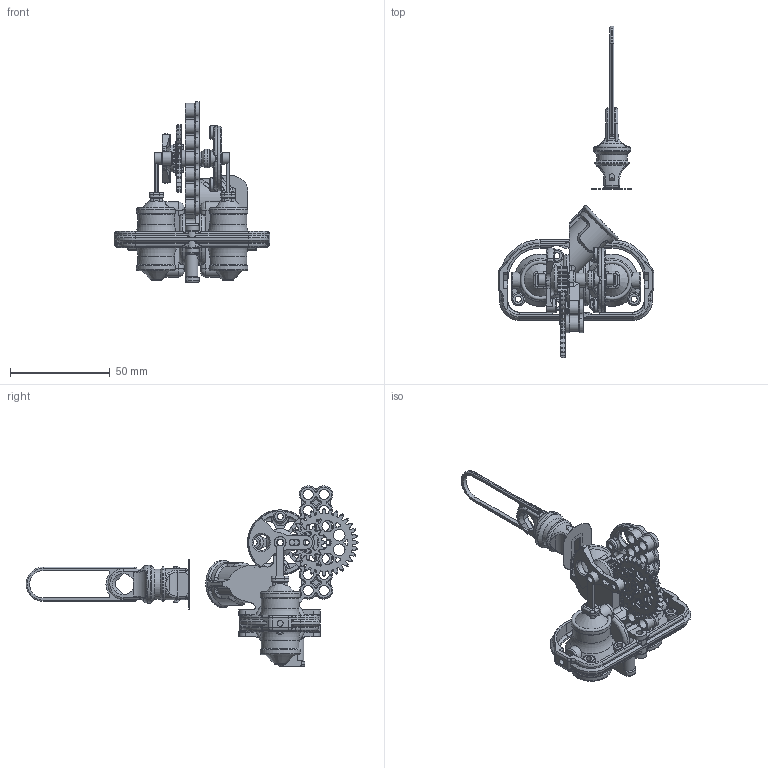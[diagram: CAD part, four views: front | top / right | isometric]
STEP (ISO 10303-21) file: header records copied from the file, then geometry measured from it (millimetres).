
FILE_DESCRIPTION(/* description */ (''),/* implementation_level */ '2;1');
FILE_NAME(/* name */ 'D:/WorkWork/3D_Print/A_Oscillator/FINAL/Oscillator_LEGO_V7 v11.step',/* time_stamp */ '2021-03-13T13:36:22+03:00',/* author */ (''),/* organization */ (''),/* preprocessor_version */ 'ST-DEVELOPER v18.1',/* originating_system */ 'Autodesk Translation Framework v9.10.0.1330',/* authorisation */ '');
FILE_SCHEMA (('AUTOMOTIVE_DESIGN { 1 0 10303 214 3 1 1 }'));
Products named in the file (7): Oscillator_LEGO_V7; Cylinder; Base; Cylinder_R; Spur Gear (32 teeth) (1); Spur Gear (16 teeth); Balloon_Key_Smaller v1
Assembly tree (6 placements, depth 2):
  Oscillator_LEGO_V7
    Cylinder
    Base
    Cylinder_R
    Spur Gear (32 teeth) (1)
    Spur Gear (16 teeth)
    Balloon_Key_Smaller v1
Bounding box: 77.84 x 166.2 x 90.25 mm (x, y, z)
Volume: 33831.8 mm3; surface area: 47934.5 mm2
Topology: 19 solids, 19 shells, 2411 faces, 6636 edges, 4198 vertices
Faces by surface type: cylinder 881, plane 675, bspline 431, cone 265, torus 155, sphere 4
Full cylindrical faces by diameter (mm): 3 x22, 3.2 x11, 3.4 x5, 4.4 x1, 4.6 x1, 5.1 x11, 5.8 x2, 5.849 x7, 6 x1, 6.3 x11, 6.6 x9, 7.8 x1, 7.9 x1, 8.6 x1, 8.8 x4, 9.4 x1, 12.8 x3, 14 x1, 15.2 x1, 16.4 x6, 18.8 x2, 19.6 x2, 23.2 x2, 23.8 x2, 32.6 x1
Entity records: 119495 total; most frequent: CARTESIAN_POINT 60593, ORIENTED_EDGE 13182, DIRECTION 11460, EDGE_CURVE 6591, AXIS2_PLACEMENT_3D 4500, VERTEX_POINT 4198, EDGE_LOOP 2585, LINE 2460
